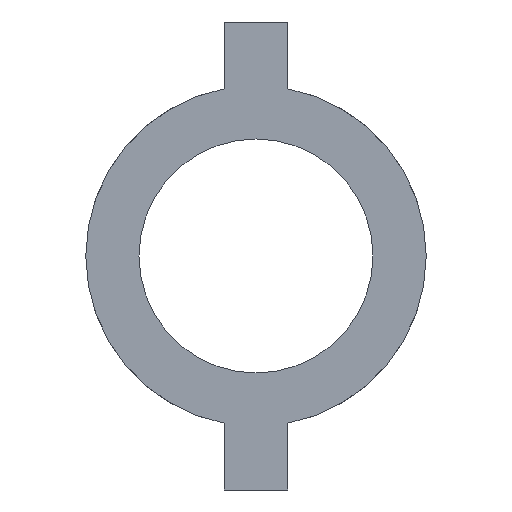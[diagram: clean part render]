
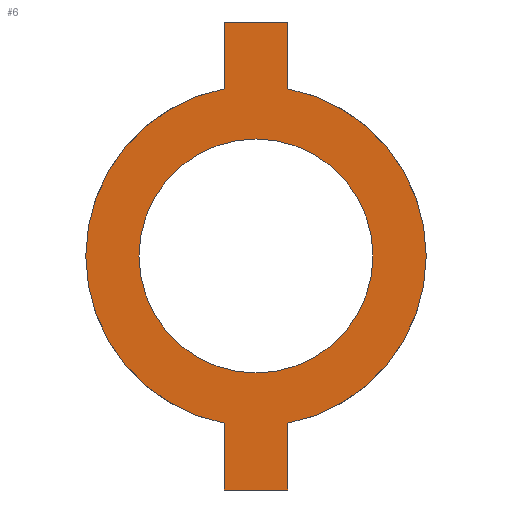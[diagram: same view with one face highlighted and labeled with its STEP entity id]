
A CAD part, front view. The second image highlights one B-rep face of the part: STEP entity #6.
In plain terms, the highlighted planar face has unit normal (0, -1, 0).
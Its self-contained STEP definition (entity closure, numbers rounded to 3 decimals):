
#6 = ADVANCED_FACE ( 'NONE', ( #408, #244 ), #405, .F. ) ;
#27 = EDGE_CURVE ( 'NONE', #432, #411, #290, .T. ) ;
#32 = EDGE_CURVE ( 'NONE', #416, #433, #264, .T. ) ;
#33 = EDGE_CURVE ( 'NONE', #423, #428, #92, .T. ) ;
#34 = EDGE_CURVE ( 'NONE', #428, #424, #100, .T. ) ;
#35 = EDGE_CURVE ( 'NONE', #424, #432, #96, .T. ) ;
#36 = EDGE_CURVE ( 'NONE', #411, #431, #163, .T. ) ;
#37 = EDGE_CURVE ( 'NONE', #431, #427, #159, .T. ) ;
#38 = EDGE_CURVE ( 'NONE', #427, #434, #70, .T. ) ;
#58 = AXIS2_PLACEMENT_3D ( 'NONE', #404, #403, #402 ) ;
#62 = DIRECTION ( 'NONE',  ( -1., 0., 0. ) ) ;
#63 = DIRECTION ( 'NONE',  ( 0., 1., 0. ) ) ;
#65 = CARTESIAN_POINT ( 'NONE',  ( -15., 0., -110. ) ) ;
#66 = CARTESIAN_POINT ( 'NONE',  ( 15., 0., 78.581 ) ) ;
#67 = CARTESIAN_POINT ( 'NONE',  ( 0., 0., -55. ) ) ;
#68 = CARTESIAN_POINT ( 'NONE',  ( -15., 0., -78.581 ) ) ;
#69 = CARTESIAN_POINT ( 'NONE',  ( -15., 0., 110. ) ) ;
#70 = LINE ( 'NONE', #155, #268 ) ;
#71 = DIRECTION ( 'NONE',  ( 0., 0., 1. ) ) ;
#74 = CARTESIAN_POINT ( 'NONE',  ( 15., 0., -110. ) ) ;
#75 = CARTESIAN_POINT ( 'NONE',  ( 15., 0., 110. ) ) ;
#77 = DIRECTION ( 'NONE',  ( 0., 1., 0. ) ) ;
#79 = CARTESIAN_POINT ( 'NONE',  ( -15., 0., -110. ) ) ;
#80 = CARTESIAN_POINT ( 'NONE',  ( 15., 0., -78.581 ) ) ;
#85 = CARTESIAN_POINT ( 'NONE',  ( 0., 0., 0. ) ) ;
#90 = CARTESIAN_POINT ( 'NONE',  ( -15., 0., 78.581 ) ) ;
#92 = LINE ( 'NONE', #143, #267 ) ;
#93 = CARTESIAN_POINT ( 'NONE',  ( 0., 0., 55. ) ) ;
#96 = LINE ( 'NONE', #169, #266 ) ;
#100 = LINE ( 'NONE', #65, #269 ) ;
#101 = DIRECTION ( 'NONE',  ( 0., 0., 1. ) ) ;
#102 = DIRECTION ( 'NONE',  ( 0., 1., 0. ) ) ;
#103 = CARTESIAN_POINT ( 'NONE',  ( 0., 0., 0. ) ) ;
#131 = DIRECTION ( 'NONE',  ( 0., 0., 1. ) ) ;
#132 = DIRECTION ( 'NONE',  ( 0., 1., 0. ) ) ;
#133 = CARTESIAN_POINT ( 'NONE',  ( 0., 0., 0. ) ) ;
#143 = CARTESIAN_POINT ( 'NONE',  ( 15., 0., -68.52 ) ) ;
#152 = DIRECTION ( 'NONE',  ( 0., 0., -1. ) ) ;
#155 = CARTESIAN_POINT ( 'NONE',  ( 15., 0., 66.706 ) ) ;
#156 = DIRECTION ( 'NONE',  ( 1., 0., 0. ) ) ;
#158 = CARTESIAN_POINT ( 'NONE',  ( -15., 0., 110. ) ) ;
#159 = LINE ( 'NONE', #158, #271 ) ;
#160 = DIRECTION ( 'NONE',  ( 0., 0., 1. ) ) ;
#162 = CARTESIAN_POINT ( 'NONE',  ( -15., 0., 66.706 ) ) ;
#163 = LINE ( 'NONE', #162, #270 ) ;
#164 = DIRECTION ( 'NONE',  ( 0., 0., 1. ) ) ;
#165 = DIRECTION ( 'NONE',  ( 0., 0., -1. ) ) ;
#166 = CARTESIAN_POINT ( 'NONE',  ( 0., 0., 0. ) ) ;
#168 = DIRECTION ( 'NONE',  ( 0., 0., 1. ) ) ;
#169 = CARTESIAN_POINT ( 'NONE',  ( -15., 0., -68.52 ) ) ;
#203 = CIRCLE ( 'NONE', #205, 80. ) ;
#205 = AXIS2_PLACEMENT_3D ( 'NONE', #103, #102, #101 ) ;
#231 = EDGE_LOOP ( 'NONE', ( #459, #460, #461, #462, #463, #464, #465, #466 ) ) ;
#238 = EDGE_LOOP ( 'NONE', ( #467, #468 ) ) ;
#244 = FACE_BOUND ( 'NONE', #238, .T. ) ;
#251 = EDGE_CURVE ( 'NONE', #433, #416, #277, .T. ) ;
#261 = EDGE_CURVE ( 'NONE', #434, #423, #203, .T. ) ;
#264 = CIRCLE ( 'NONE', #265, 55. ) ;
#265 = AXIS2_PLACEMENT_3D ( 'NONE', #85, #77, #71 ) ;
#266 = VECTOR ( 'NONE', #168, 1000. ) ;
#267 = VECTOR ( 'NONE', #165, 1000. ) ;
#268 = VECTOR ( 'NONE', #152, 1000. ) ;
#269 = VECTOR ( 'NONE', #62, 1000. ) ;
#270 = VECTOR ( 'NONE', #160, 1000. ) ;
#271 = VECTOR ( 'NONE', #156, 1000. ) ;
#277 = CIRCLE ( 'NONE', #280, 55. ) ;
#280 = AXIS2_PLACEMENT_3D ( 'NONE', #133, #132, #131 ) ;
#290 = CIRCLE ( 'NONE', #295, 80. ) ;
#295 = AXIS2_PLACEMENT_3D ( 'NONE', #166, #63, #164 ) ;
#402 = DIRECTION ( 'NONE',  ( 0., 0., 1. ) ) ;
#403 = DIRECTION ( 'NONE',  ( 0., 1., 0. ) ) ;
#404 = CARTESIAN_POINT ( 'NONE',  ( 0., 0., 0. ) ) ;
#405 = PLANE ( 'NONE',  #58 ) ;
#408 = FACE_OUTER_BOUND ( 'NONE', #231, .T. ) ;
#411 = VERTEX_POINT ( 'NONE', #90 ) ;
#416 = VERTEX_POINT ( 'NONE', #93 ) ;
#423 = VERTEX_POINT ( 'NONE', #80 ) ;
#424 = VERTEX_POINT ( 'NONE', #79 ) ;
#427 = VERTEX_POINT ( 'NONE', #75 ) ;
#428 = VERTEX_POINT ( 'NONE', #74 ) ;
#431 = VERTEX_POINT ( 'NONE', #69 ) ;
#432 = VERTEX_POINT ( 'NONE', #68 ) ;
#433 = VERTEX_POINT ( 'NONE', #67 ) ;
#434 = VERTEX_POINT ( 'NONE', #66 ) ;
#459 = ORIENTED_EDGE ( 'NONE', *, *, #261, .F. ) ;
#460 = ORIENTED_EDGE ( 'NONE', *, *, #38, .F. ) ;
#461 = ORIENTED_EDGE ( 'NONE', *, *, #37, .F. ) ;
#462 = ORIENTED_EDGE ( 'NONE', *, *, #36, .F. ) ;
#463 = ORIENTED_EDGE ( 'NONE', *, *, #27, .F. ) ;
#464 = ORIENTED_EDGE ( 'NONE', *, *, #35, .F. ) ;
#465 = ORIENTED_EDGE ( 'NONE', *, *, #34, .F. ) ;
#466 = ORIENTED_EDGE ( 'NONE', *, *, #33, .F. ) ;
#467 = ORIENTED_EDGE ( 'NONE', *, *, #251, .T. ) ;
#468 = ORIENTED_EDGE ( 'NONE', *, *, #32, .T. ) ;
